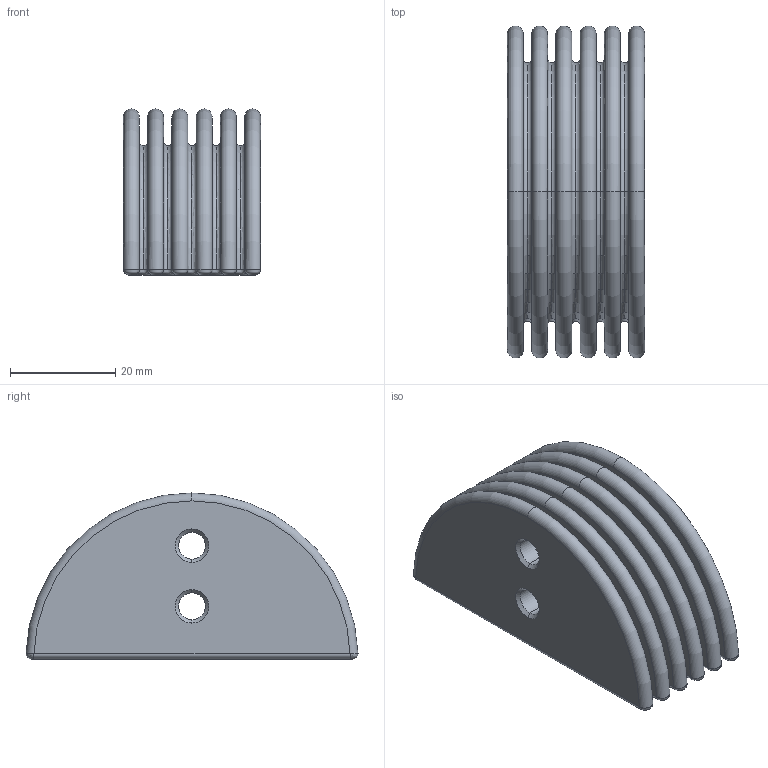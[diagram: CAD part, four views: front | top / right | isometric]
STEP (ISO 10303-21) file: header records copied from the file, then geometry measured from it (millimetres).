
FILE_DESCRIPTION (( 'STEP AP214' ), '1' );
FILE_NAME ('String Aligner.STEP', '2016-12-17T20:58:19', ( '' ), ( '' ), 'SwSTEP 2.0', 'SolidWorks 2016', '' );
FILE_SCHEMA (( 'AUTOMOTIVE_DESIGN' ));
Length unit declared in the file: millimetre
Products named in the file (1): String Aligner
Bounding box: 26 x 62.97 x 31.5 mm (x, y, z)
Volume: 33995.2 mm3; surface area: 12757.7 mm2
Topology: 1 solids, 1 shells, 101 faces, 240 edges, 141 vertices
Faces by surface type: torus 32, cylinder 26, bspline 22, plane 13, cone 8
Entity records: 5122 total; most frequent: CARTESIAN_POINT 2851, ORIENTED_EDGE 480, DIRECTION 476, EDGE_CURVE 240, AXIS2_PLACEMENT_3D 210, VERTEX_POINT 141, CIRCLE 130, EDGE_LOOP 105
